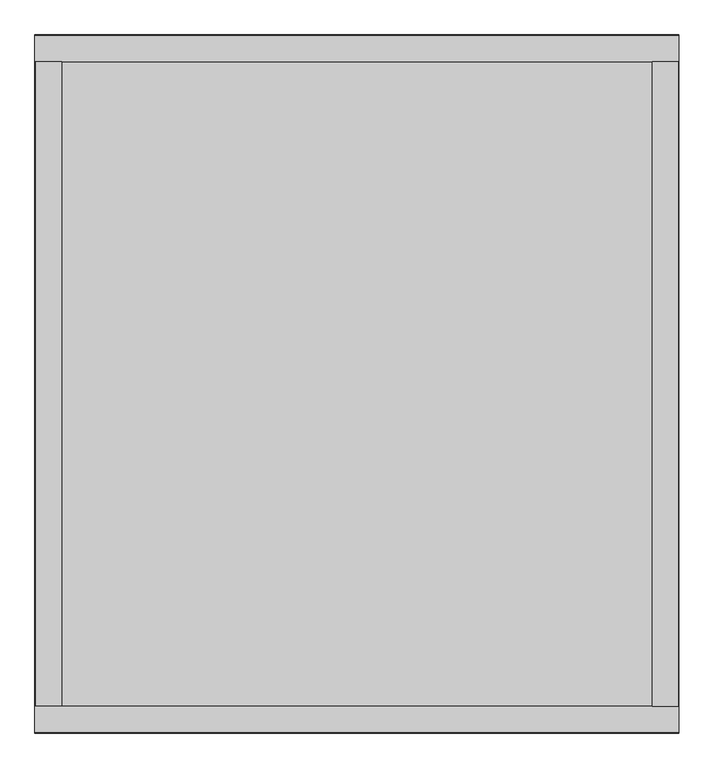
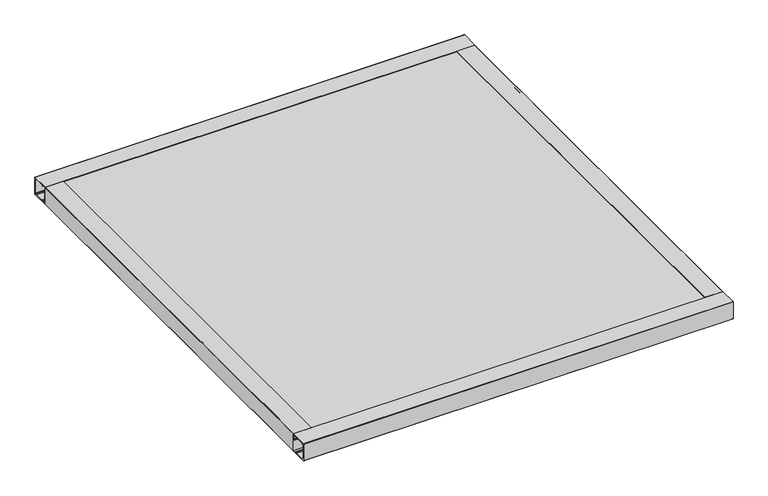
"""IFC4 building model written with IfcOpenShell, lengths in millimetres: proxy geometry, Specialy Equipment_Blindspace_Custom-Pockets-for-Roller-Blinds : 2400 mm x 2600 mm with Custom Box."""

from ifc_helpers import new_model, si_unit, point, frame, frame_2d, origin, place, context, project, spatial, polyline, circle_curve, trimmed, segment, composite_curve, outline, extrude, source, transform, mapped, element, save


def specialty_equipment_907c0885(model_context):
    return source(origin(), model_context, "Body", "SweptSolid", [
        extrude(outline(composite_curve([segment(polyline([(-20.5, 1199.25), (-20.5, 1100.0), (-23.0, 1100.0), (-23.0, 1122.9912851), (-28.2357774, 1122.9912851), (-28.2357774, 1130.0039757), (-23.0, 1130.0039757), (-23.0, 1188.0030209), (-28.2357774, 1188.0030209), (-28.2357774, 1194.991), (-23.0, 1194.991), (-23.0, 1197.5), (-118.0, 1197.5), (-118.0, 1194.991), (-112.7642226, 1194.991), (-112.7642226, 1188.0030209), (-118.0, 1188.0030209), (-118.0, 1130.0039757), (-112.7642226, 1130.0039757), (-112.7642226, 1122.9912851), (-118.0, 1122.9912851), (-118.0, 1102.4875145), (-54.5, 1102.4875145), (-54.5, 1107.4875145), (-52.0, 1107.4875145), (-52.0, 1100.0), (-120.5, 1100.0), (-120.5, 1199.25)]), True, "CONTINUOUS"), segment(trimmed(circle_curve(frame_2d((-119.75, 1199.25)), 0.75), [point((-120.5, 1199.25))], [point((-119.75, 1200.0))], False, "CARTESIAN"), True, "CONTINUOUS"), segment(polyline([(-119.75, 1200.0), (-21.25, 1200.0)]), True, "CONTINUOUS"), segment(trimmed(circle_curve(frame_2d((-21.25, 1199.25)), 0.75), [point((-21.25, 1200.0))], [point((-20.5, 1199.25))], False, "CARTESIAN"), True, "CONTINUOUS")], self_intersect=False)), frame((0.0, -1200.0, 0.0), z_axis=(0.0, 1.0, 0.0), x_axis=(0.0, 0.0, 1.0)), (0.0, 0.0, 1.0), 2400.0),
        extrude(outline(composite_curve([segment(polyline([(-1299.25, -20.5), (-1200.0, -20.5), (-1200.0, -23.0), (-1222.9912851, -23.0), (-1222.9912851, -28.2357774), (-1230.0039757, -28.2357774), (-1230.0039757, -23.0), (-1288.0030209, -23.0), (-1288.0030209, -28.2357774), (-1294.991, -28.2357774), (-1294.991, -23.0), (-1297.5, -23.0), (-1297.5, -118.0), (-1294.991, -118.0), (-1294.991, -112.7642226), (-1288.0030209, -112.7642226), (-1288.0030209, -118.0), (-1230.0039757, -118.0), (-1230.0039757, -112.7642226), (-1222.9912851, -112.7642226), (-1222.9912851, -118.0), (-1202.4875145, -118.0), (-1202.4875145, -54.5), (-1207.4875145, -54.5), (-1207.4875145, -52.0), (-1200.0, -52.0), (-1200.0, -120.5), (-1299.25, -120.5)]), True, "CONTINUOUS"), segment(trimmed(circle_curve(frame_2d((-1299.25, -119.75)), 0.75), [point((-1299.25, -120.5))], [point((-1300.0, -119.75))], False, "CARTESIAN"), True, "CONTINUOUS"), segment(polyline([(-1300.0, -119.75), (-1300.0, -21.25)]), True, "CONTINUOUS"), segment(trimmed(circle_curve(frame_2d((-1299.25, -21.25)), 0.75), [point((-1300.0, -21.25))], [point((-1299.25, -20.5))], False, "CARTESIAN"), True, "CONTINUOUS")], self_intersect=False)), frame((-1200.0, 0.0, 0.0), z_axis=(1.0, 0.0, 0.0), x_axis=(0.0, 1.0, 0.0)), (0.0, 0.0, 1.0), 2400.0),
        extrude(outline(composite_curve([segment(trimmed(circle_curve(frame_2d((-21.25, -1199.25)), 0.75), [point((-20.5, -1199.25))], [point((-21.25, -1200.0))], False, "CARTESIAN"), True, "CONTINUOUS"), segment(polyline([(-21.25, -1200.0), (-119.75, -1200.0)]), True, "CONTINUOUS"), segment(trimmed(circle_curve(frame_2d((-119.75, -1199.25)), 0.75), [point((-119.75, -1200.0))], [point((-120.5, -1199.25))], False, "CARTESIAN"), True, "CONTINUOUS"), segment(polyline([(-120.5, -1199.25), (-120.5, -1100.0), (-52.0, -1100.0), (-52.0, -1107.4875145), (-54.5, -1107.4875145), (-54.5, -1102.4875145), (-118.0, -1102.4875145), (-118.0, -1122.9912851), (-112.7642226, -1122.9912851), (-112.7642226, -1130.0039757), (-118.0, -1130.0039757), (-118.0, -1188.0030209), (-112.7642226, -1188.0030209), (-112.7642226, -1194.991), (-118.0, -1194.991), (-118.0, -1197.5), (-23.0, -1197.5), (-23.0, -1194.991), (-28.2357774, -1194.991), (-28.2357774, -1188.0030209), (-23.0, -1188.0030209), (-23.0, -1130.0039757), (-28.2357774, -1130.0039757), (-28.2357774, -1122.9912851), (-23.0, -1122.9912851), (-23.0, -1100.0), (-20.5, -1100.0), (-20.5, -1199.25)]), True, "CONTINUOUS")], self_intersect=False)), frame((0.0, -1200.0, 0.0), z_axis=(0.0, 1.0, 0.0), x_axis=(0.0, 0.0, 1.0)), (0.0, 0.0, 1.0), 2400.0),
        extrude(outline(composite_curve([segment(trimmed(circle_curve(frame_2d((1299.25, -21.25)), 0.75), [point((1299.25, -20.5))], [point((1300.0, -21.25))], False, "CARTESIAN"), True, "CONTINUOUS"), segment(polyline([(1300.0, -21.25), (1300.0, -119.75)]), True, "CONTINUOUS"), segment(trimmed(circle_curve(frame_2d((1299.25, -119.75)), 0.75), [point((1300.0, -119.75))], [point((1299.25, -120.5))], False, "CARTESIAN"), True, "CONTINUOUS"), segment(polyline([(1299.25, -120.5), (1200.0, -120.5), (1200.0, -52.0), (1207.4875145, -52.0), (1207.4875145, -54.5), (1202.4875145, -54.5), (1202.4875145, -118.0), (1222.9912851, -118.0), (1222.9912851, -112.7642226), (1230.0039757, -112.7642226), (1230.0039757, -118.0), (1288.0030209, -118.0), (1288.0030209, -112.7642226), (1294.991, -112.7642226), (1294.991, -118.0), (1297.5, -118.0), (1297.5, -23.0), (1294.991, -23.0), (1294.991, -28.2357774), (1288.0030209, -28.2357774), (1288.0030209, -23.0), (1230.0039757, -23.0), (1230.0039757, -28.2357774), (1222.9912851, -28.2357774), (1222.9912851, -23.0), (1200.0, -23.0), (1200.0, -20.5), (1299.25, -20.5)]), True, "CONTINUOUS")], self_intersect=False)), frame((-1200.0, 0.0, 0.0), z_axis=(1.0, 0.0, 0.0), x_axis=(0.0, 1.0, 0.0)), (0.0, 0.0, 1.0), 2400.0),
        extrude(outline(polyline([(1180.0, 1280.0), (1180.0, -1280.0), (-1180.0, -1280.0), (-1180.0, 1280.0), (1180.0, 1280.0)])), frame((0.0, 0.0, -42.4999999), z_axis=(0.0, 0.0, 1.0), x_axis=(1.0, 0.0, 0.0)), (0.0, 0.0, 1.0), 5.0),
    ])


if __name__ == "__main__":
    model = new_model("IFC4")
    model_context = context("Model", 3, world=origin())
    ifc_project = project(units=[si_unit("LENGTHUNIT", "METRE", prefix="MILLI")], contexts=[model_context])
    site = spatial("IfcSite", under=ifc_project)
    building = spatial("IfcBuilding", under=site)
    placement = place(None, origin())
    specialty_equipment_shape = specialty_equipment_907c0885(model_context)
    element("IfcBuildingElementProxy", 1, Name="Specialy Equipment_Blindspace_Custom-Pockets-for-Roller-Blinds : 2400 mm x 2600 mm with Custom Box", ObjectType="Specialy Equipment_Blindspace_Custom-Pockets-for-Roller-Blinds : 2400 mm x 2600 mm with Custom Box", at=placement, inside=building, context=model_context, shape_type="MappedRepresentation", body=[
        mapped(specialty_equipment_shape, transform((0.0, 0.0, 0.0), x_axis=(1.0, 0.0, 0.0), y_axis=(0.0, 1.0, 0.0), z_axis=(0.0, 0.0, 1.0))),
    ])
    save(model, "model.ifc")
